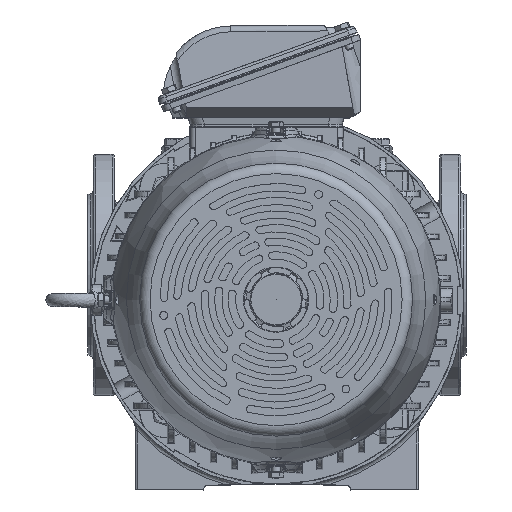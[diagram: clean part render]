
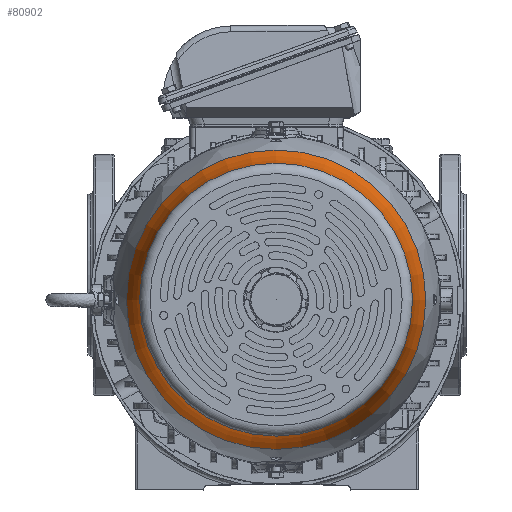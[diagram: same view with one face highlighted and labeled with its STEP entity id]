
A CAD part, top view. The second image highlights one B-rep face of the part: STEP entity #80902.
In plain terms, the highlighted toroidal (fillet/blend) face has major radius 308.616 mm and minor radius 180 mm.
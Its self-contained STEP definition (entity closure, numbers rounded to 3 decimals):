
#28=TOROIDAL_SURFACE('',#86823,308.617,180.);
#15418=FACE_OUTER_BOUND('',#20141,.T.);
#20141=EDGE_LOOP('',(#55852,#55853,#55854,#55855,#55856,#55857));
#25397=CIRCLE('',#86804,142.487);
#25398=CIRCLE('',#86805,142.487);
#25416=CIRCLE('',#86824,180.);
#25417=CIRCLE('',#86825,129.927);
#25418=CIRCLE('',#86826,129.927);
#33425=VERTEX_POINT('',#125455);
#33426=VERTEX_POINT('',#125459);
#33460=VERTEX_POINT('',#125749);
#33461=VERTEX_POINT('',#125751);
#42014=EDGE_CURVE('',#33425,#33426,#25397,.T.);
#42015=EDGE_CURVE('',#33426,#33425,#25398,.T.);
#42050=EDGE_CURVE('',#33425,#33460,#25416,.T.);
#42051=EDGE_CURVE('',#33460,#33461,#25417,.T.);
#42052=EDGE_CURVE('',#33461,#33460,#25418,.T.);
#55852=ORIENTED_EDGE('',*,*,#42015,.F.);
#55853=ORIENTED_EDGE('',*,*,#42014,.F.);
#55854=ORIENTED_EDGE('',*,*,#42050,.T.);
#55855=ORIENTED_EDGE('',*,*,#42051,.T.);
#55856=ORIENTED_EDGE('',*,*,#42052,.T.);
#55857=ORIENTED_EDGE('',*,*,#42050,.F.);
#80902=ADVANCED_FACE('',(#15418),#28,.F.);
#86804=AXIS2_PLACEMENT_3D('',#125460,#97928,#97929);
#86805=AXIS2_PLACEMENT_3D('',#125461,#97930,#97931);
#86823=AXIS2_PLACEMENT_3D('',#125748,#97966,#97967);
#86824=AXIS2_PLACEMENT_3D('',#125750,#97968,#97969);
#86825=AXIS2_PLACEMENT_3D('',#125752,#97970,#97971);
#86826=AXIS2_PLACEMENT_3D('',#125753,#97972,#97973);
#97928=DIRECTION('center_axis',(0.,0.,
-1.));
#97929=DIRECTION('ref_axis',(-1.,0.,0.));
#97930=DIRECTION('center_axis',(0.,0.,
-1.));
#97931=DIRECTION('ref_axis',(-1.,0.,0.));
#97966=DIRECTION('center_axis',(0.,0.,
-1.));
#97967=DIRECTION('ref_axis',(-1.,0.,0.));
#97968=DIRECTION('center_axis',(0.,1.,0.));
#97969=DIRECTION('ref_axis',(1.,0.,0.));
#97970=DIRECTION('center_axis',(0.,0.,
-1.));
#97971=DIRECTION('ref_axis',(-1.,0.,0.));
#97972=DIRECTION('center_axis',(0.,0.,
-1.));
#97973=DIRECTION('ref_axis',(-1.,0.,0.));
#125455=CARTESIAN_POINT('',(141.623,0.,553.399));
#125459=CARTESIAN_POINT('',(-143.35,0.,553.399));
#125460=CARTESIAN_POINT('Origin',(-0.863,0.,
553.399));
#125461=CARTESIAN_POINT('Origin',(-0.863,0.,
553.399));
#125748=CARTESIAN_POINT('Origin',(-0.863,0.,
622.687));
#125749=CARTESIAN_POINT('',(129.064,0.,601.005));
#125750=CARTESIAN_POINT('Origin',(307.753,0.,
622.687));
#125751=CARTESIAN_POINT('',(-130.791,0.,601.005));
#125752=CARTESIAN_POINT('Origin',(-0.863,0.,
601.005));
#125753=CARTESIAN_POINT('Origin',(-0.863,0.,
601.005));
